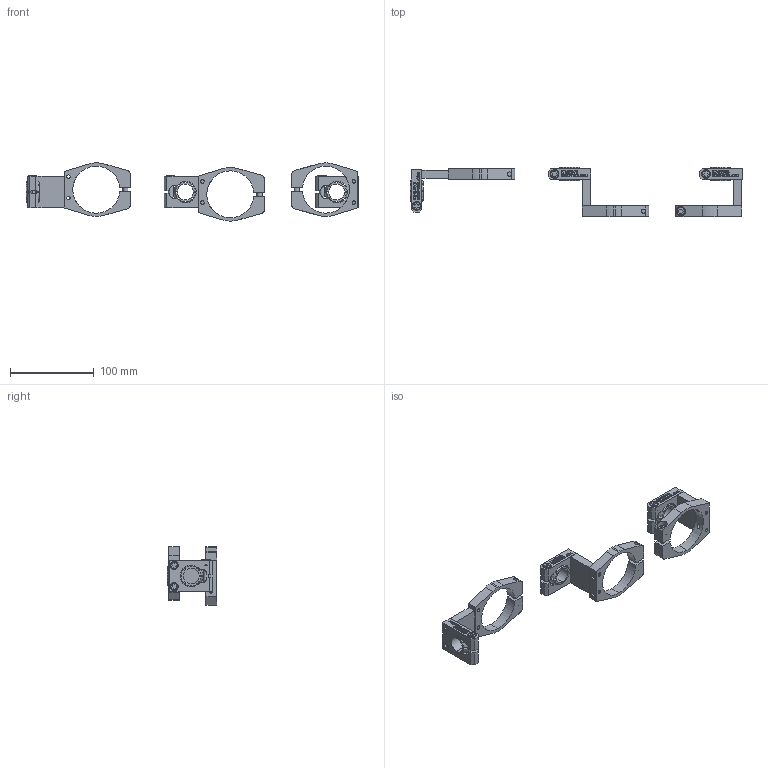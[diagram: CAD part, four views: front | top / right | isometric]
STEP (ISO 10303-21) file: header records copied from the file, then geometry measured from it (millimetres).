
FILE_DESCRIPTION (( 'STEP AP214' ), '1' );
FILE_NAME ('RTI-SNM-75-SPT30-125.STEP', '2013-10-22T20:19:09', ( 'user' ), ( '' ), 'SwSTEP 2.0', 'SolidWorks 2009', '' );
FILE_SCHEMA (( 'AUTOMOTIVE_DESIGN' ));
Length unit declared in the file: inch
Products named in the file (11): RTI-SMB-75; 1.125 OD_.758 ID_Swivel_Ball; RTI-NM-SPT30; RTI-NM-56-B; M6 WASHER; M6 S.H.C.S._M6x30mm; RTI-SM-SP-125; M5 WASHER; M5 S.H.C.S._M5x50mm; RTI-SNM-75-SPT30-125
Assembly tree (28 placements, depth 3):
  RTI-SNM-75-SPT30-125
    M5 WASHER  x6
    M5 S.H.C.S._M5x50mm  x6
    RTI-NM-SPT30  x3
      M6 S.H.C.S._M6x30mm
      M6 WASHER
      RTI-NM-56-B
    RTI-SM-SP-125  x3
    RTI-SMB-75  x3
      M6 S.H.C.S._M6x30mm
      M6 WASHER
      1.125 OD_.758 ID_Swivel_Ball
      RTI-SMB-75
Bounding box: 397.33 x 58.74 x 69.8 mm (x, y, z)
Volume: 158232.9 mm3; surface area: 90569.7 mm2
Topology: 36 solids, 36 shells, 3270 faces, 8499 edges, 5649 vertices
Faces by surface type: plane 2007, bspline 933, cylinder 249, cone 51, torus 24, sphere 6
Entity records: 63081 total; most frequent: CARTESIAN_POINT 27875, ORIENTED_EDGE 5456, DIRECTION 3758, EDGE_CURVE 2728, LINE 1916, VECTOR 1916, VERTEX_POINT 1816, EDGE_LOOP 1184
